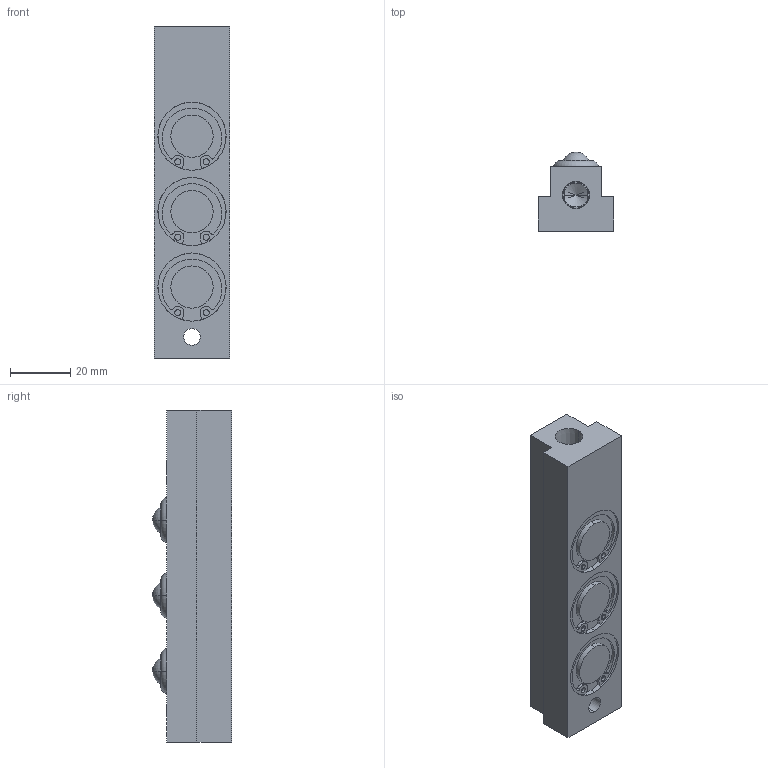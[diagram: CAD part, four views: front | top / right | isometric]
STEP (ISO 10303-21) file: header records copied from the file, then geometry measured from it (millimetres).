
FILE_DESCRIPTION (( 'STEP AP203' ), '1' );
FILE_NAME ('PVL13T-3.STEP', '2015-12-24T05:06:44', ( '' ), ( '' ), 'SwSTEP 2.0', 'SolidWorks 2013', '' );
FILE_SCHEMA (( 'CONFIG_CONTROL_DESIGN' ));
Length unit declared in the file: millimetre
Products named in the file (1): PVL13T-3
Bounding box: 25 x 26.26 x 110 mm (x, y, z)
Volume: 48767.3 mm3; surface area: 13165.5 mm2
Topology: 2 solids, 2 shells, 124 faces, 293 edges, 193 vertices
Faces by surface type: cylinder 58, plane 46, cone 8, torus 6, sphere 6
Entity records: 3700 total; most frequent: DIRECTION 699, CARTESIAN_POINT 607, ORIENTED_EDGE 578, EDGE_CURVE 289, AXIS2_PLACEMENT_3D 285, VERTEX_POINT 193, CIRCLE 160, EDGE_LOOP 150
